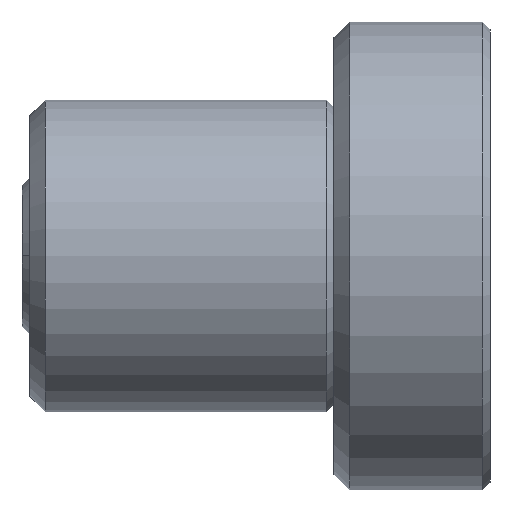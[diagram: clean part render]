
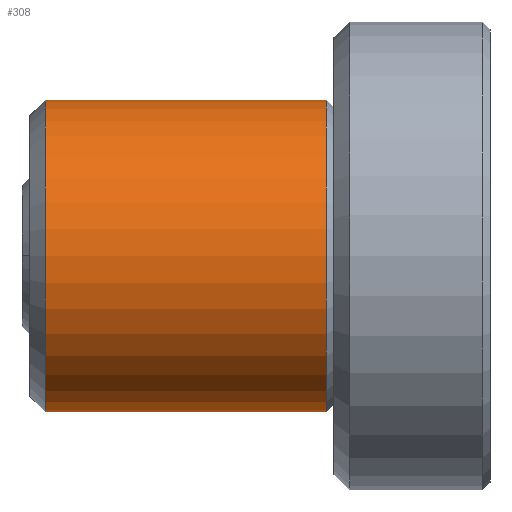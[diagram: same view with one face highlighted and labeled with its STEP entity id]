
A CAD part, top view. The second image highlights one B-rep face of the part: STEP entity #308.
In plain terms, the highlighted cylindrical face has radius 10 mm (diameter 20 mm), a partial arc.
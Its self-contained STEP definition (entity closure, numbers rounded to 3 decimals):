
#52=DIRECTION('',(1.,0.,0.));
#53=VECTOR('',#52,18.);
#54=CARTESIAN_POINT('',(1.,-10.,
0.));
#55=LINE('',#54,#53);
#61=CARTESIAN_POINT('',(1.,0.,0.));
#62=DIRECTION('',(-1.,0.,0.));
#63=DIRECTION('',(0.,-1.,0.));
#64=AXIS2_PLACEMENT_3D('',#61,#62,#63);
#66=DIRECTION('',(1.,0.,0.));
#67=VECTOR('',#66,18.);
#68=CARTESIAN_POINT('',(1.,10.,0.));
#69=LINE('',#68,#67);
#70=CARTESIAN_POINT('',(19.,0.,0.));
#71=DIRECTION('',(1.,0.,0.));
#72=DIRECTION('',(0.,1.,0.));
#73=AXIS2_PLACEMENT_3D('',#70,#71,#72);
#165=CARTESIAN_POINT('',(19.,10.,0.));
#166=CARTESIAN_POINT('',(19.,-10.,0.));
#167=VERTEX_POINT('',#165);
#168=VERTEX_POINT('',#166);
#173=CARTESIAN_POINT('',(1.,-10.,0.));
#174=CARTESIAN_POINT('',(1.,10.,0.));
#175=VERTEX_POINT('',#173);
#176=VERTEX_POINT('',#174);
#296=CARTESIAN_POINT('',(0.,0.,0.));
#297=DIRECTION('',(1.,0.,0.));
#298=DIRECTION('',(0.,-1.,0.));
#299=AXIS2_PLACEMENT_3D('',#296,#297,#298);
#300=CYLINDRICAL_SURFACE('',#299,10.);
#301=ORIENTED_EDGE('',*,*,#261,.T.);
#302=ORIENTED_EDGE('',*,*,#291,.T.);
#304=ORIENTED_EDGE('',*,*,#303,.T.);
#305=ORIENTED_EDGE('',*,*,#287,.F.);
#306=EDGE_LOOP('',(#301,#302,#304,#305));
#307=FACE_OUTER_BOUND('',#306,.F.);
#308=ADVANCED_FACE('',(#307),#300,.T.);
#65=CIRCLE('',#64,10.);
#74=CIRCLE('',#73,10.);
#261=EDGE_CURVE('',#175,#176,#65,.T.);
#287=EDGE_CURVE('',#175,#168,#55,.T.);
#291=EDGE_CURVE('',#176,#167,#69,.T.);
#303=EDGE_CURVE('',#167,#168,#74,.T.);
